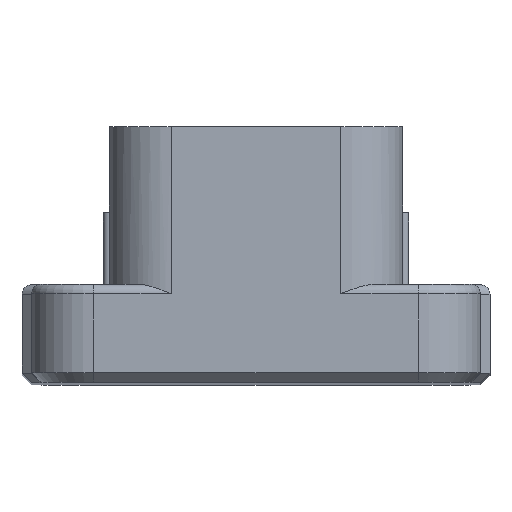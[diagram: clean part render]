
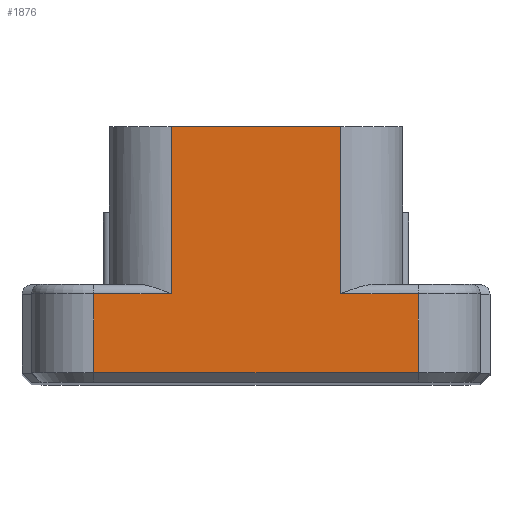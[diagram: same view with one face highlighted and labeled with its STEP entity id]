
A CAD part, top view. The second image highlights one B-rep face of the part: STEP entity #1876.
In plain terms, the highlighted planar face has unit normal (0, 0, 1).
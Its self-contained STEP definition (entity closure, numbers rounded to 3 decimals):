
#274=DIRECTION('',(0.,1.,0.));
#275=VECTOR('',#274,3.5);
#276=CARTESIAN_POINT('',(1.775,1.85,19.975));
#277=LINE('',#276,#275);
#545=DIRECTION('',(-1.,0.,0.));
#546=VECTOR('',#545,6.8);
#547=CARTESIAN_POINT('',(3.4,0.2,19.975));
#548=LINE('',#547,#546);
#549=DIRECTION('',(0.,-1.,0.));
#550=VECTOR('',#549,1.65);
#551=CARTESIAN_POINT('',(-3.4,1.85,19.975));
#552=LINE('',#551,#550);
#553=DIRECTION('',(1.,0.,0.));
#554=VECTOR('',#553,1.625);
#555=CARTESIAN_POINT('',(-3.4,1.85,19.975));
#556=LINE('',#555,#554);
#557=DIRECTION('',(-1.,0.,0.));
#558=VECTOR('',#557,3.55);
#559=CARTESIAN_POINT('',(1.775,5.35,19.975));
#560=LINE('',#559,#558);
#561=DIRECTION('',(1.,0.,0.));
#562=VECTOR('',#561,1.625);
#563=CARTESIAN_POINT('',(1.775,1.85,19.975));
#564=LINE('',#563,#562);
#565=DIRECTION('',(0.,1.,0.));
#566=VECTOR('',#565,1.65);
#567=CARTESIAN_POINT('',(3.4,0.2,19.975));
#568=LINE('',#567,#566);
#629=DIRECTION('',(0.,-1.,0.));
#630=VECTOR('',#629,3.5);
#631=CARTESIAN_POINT('',(-1.775,5.35,19.975));
#632=LINE('',#631,#630);
#961=CARTESIAN_POINT('',(1.775,5.35,19.975));
#963=VERTEX_POINT('',#961);
#971=CARTESIAN_POINT('',(-1.775,5.35,19.975));
#972=VERTEX_POINT('',#971);
#989=CARTESIAN_POINT('',(1.775,1.85,19.975));
#990=CARTESIAN_POINT('',(3.4,1.85,19.975));
#991=VERTEX_POINT('',#989);
#992=VERTEX_POINT('',#990);
#1025=CARTESIAN_POINT('',(-3.4,1.85,19.975));
#1026=CARTESIAN_POINT('',(-1.775,1.85,19.975));
#1027=VERTEX_POINT('',#1025);
#1028=VERTEX_POINT('',#1026);
#1119=CARTESIAN_POINT('',(3.4,0.2,19.975));
#1120=VERTEX_POINT('',#1119);
#1123=CARTESIAN_POINT('',(-3.4,0.2,
19.975));
#1124=VERTEX_POINT('',#1123);
#1858=CARTESIAN_POINT('',(0.,0.,19.975));
#1859=DIRECTION('',(0.,0.,1.));
#1860=DIRECTION('',(1.,0.,0.));
#1861=AXIS2_PLACEMENT_3D('',#1858,#1859,#1860);
#1862=PLANE('',#1861);
#1863=ORIENTED_EDGE('',*,*,#1615,.T.);
#1865=ORIENTED_EDGE('',*,*,#1864,.F.);
#1866=ORIENTED_EDGE('',*,*,#1848,.T.);
#1868=ORIENTED_EDGE('',*,*,#1867,.F.);
#1869=ORIENTED_EDGE('',*,*,#1298,.F.);
#1870=ORIENTED_EDGE('',*,*,#1475,.F.);
#1871=ORIENTED_EDGE('',*,*,#1530,.T.);
#1873=ORIENTED_EDGE('',*,*,#1872,.F.);
#1874=EDGE_LOOP('',(#1863,#1865,#1866,#1868,#1869,#1870,#1871,#1873));
#1875=FACE_OUTER_BOUND('',#1874,.F.);
#1876=ADVANCED_FACE('',(#1875),#1862,.T.);
#1298=EDGE_CURVE('',#963,#972,#560,.T.);
#1475=EDGE_CURVE('',#991,#963,#277,.T.);
#1530=EDGE_CURVE('',#991,#992,#564,.T.);
#1615=EDGE_CURVE('',#1120,#1124,#548,.T.);
#1848=EDGE_CURVE('',#1027,#1028,#556,.T.);
#1864=EDGE_CURVE('',#1027,#1124,#552,.T.);
#1867=EDGE_CURVE('',#972,#1028,#632,.T.);
#1872=EDGE_CURVE('',#1120,#992,#568,.T.);
